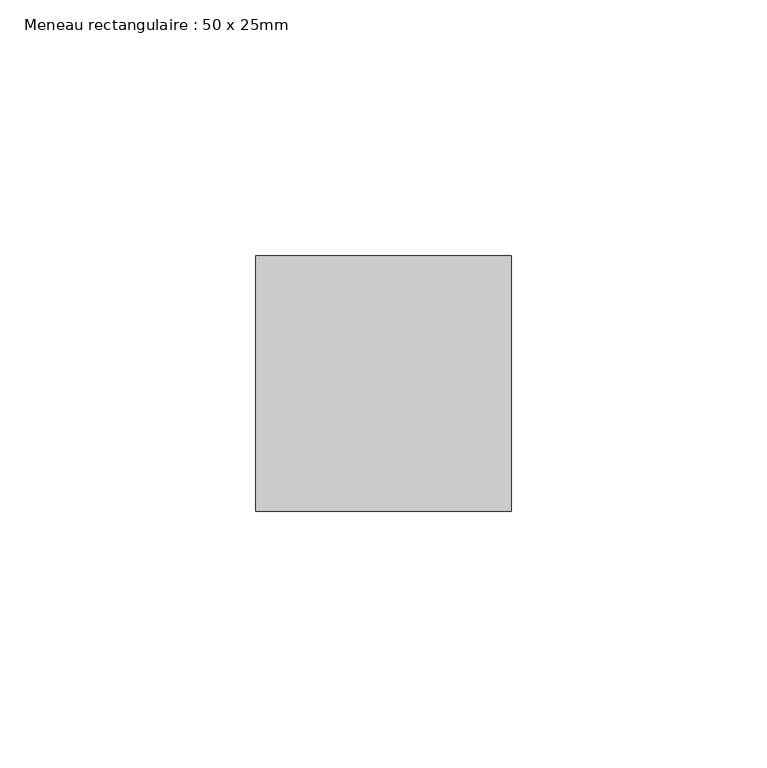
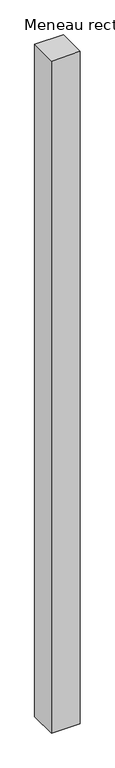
"""IFC4 building model written with IfcOpenShell, lengths in millimetres: member geometry, Meneau rectangulaire : 50 x 25mm."""

from ifc_helpers import new_model, si_unit, frame, origin, place, context, project, spatial, polyline, outline, extrude, source, transform, mapped, element, save


def meneau_rectangulaire_50_x_25mm_2977fba9(model_context):
    return source(origin(), model_context, "Body", "SweptSolid", [
        extrude(outline(polyline([(0.0, 0.0), (0.0, -50.0), (-50.0, -50.0), (-50.0, 0.0), (0.0, 0.0)])), frame((0.0, 0.0, -1231.0), z_axis=(0.0, 0.0, 1.0), x_axis=(1.0, 0.0, 0.0)), (0.0, 0.0, 1.0), 1231.0),
    ])


if __name__ == "__main__":
    model = new_model("IFC4")
    model_context = context("Model", 3, world=origin())
    ifc_project = project(units=[si_unit("LENGTHUNIT", "METRE", prefix="MILLI")], contexts=[model_context])
    site = spatial("IfcSite", under=ifc_project)
    building = spatial("IfcBuilding", under=site)
    placement = place(None, origin())
    meneau_rectangulaire_50_x_25mm_shape = meneau_rectangulaire_50_x_25mm_2977fba9(model_context)
    element("IfcMember", 1, ObjectType="Meneau rectangulaire : 50 x 25mm", at=placement, inside=building, context=model_context, shape_type="MappedRepresentation", body=[
        mapped(meneau_rectangulaire_50_x_25mm_shape, transform((0.0, 0.0, 0.0), x_axis=(1.0, 0.0, 0.0), y_axis=(0.0, 1.0, 0.0), z_axis=(0.0, 0.0, 1.0))),
    ])
    save(model, "model.ifc")
